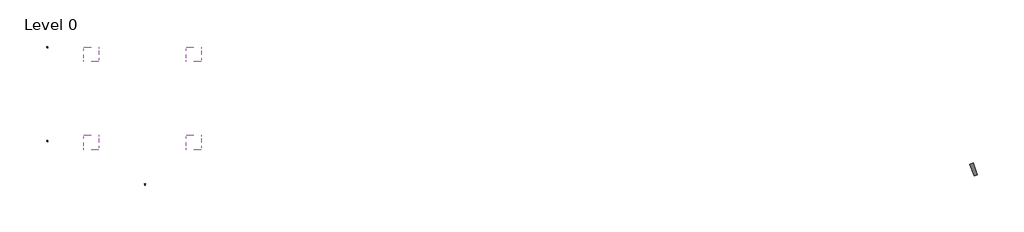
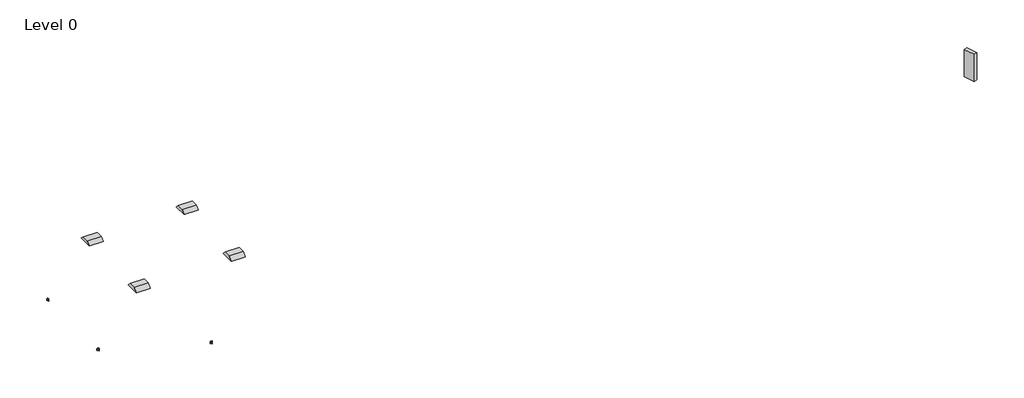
# One storey: 4 light fixtures, 4 proxies.
"""IFC4 building model written with IfcOpenShell, lengths in millimetres."""

from ifc_helpers import new_model, si_unit, origin, place, context, project, spatial, transform, mapped, element, save
from components import duplex_receptacle_standard_10251bba, lighting_and_appliance_panelboard_208v_mlo_400_a_cc8ff811, plain_recessed_lighting_fixture_2x2_120_2107ce2d

model = new_model("IFC4")

# Units and contexts
model_context = context("Model", 3, world=origin())
ifc_project = project(units=[si_unit("LENGTHUNIT", "METRE", prefix="MILLI")], contexts=[model_context])

# Site, building, storey
site = spatial("IfcSite", under=ifc_project)
building = spatial("IfcBuilding", under=site)
storey = spatial("IfcBuildingStorey", under=building, Name="Level 0", Elevation=0.0)

# Proxies
placement = place(None, origin())
duplex_receptacle_standard_shape = duplex_receptacle_standard_10251bba(model_context)
element("IfcBuildingElementProxy", 1, Name="Duplex Receptacle : Standard", ObjectType="Duplex Receptacle : Standard", at=placement, inside=storey, context=model_context, shape_type="MappedRepresentation", body=[
    mapped(duplex_receptacle_standard_shape, transform((4404.6000023, 7938.2000004, 457.2), x_axis=(-1.0, 0.0, 0.0), y_axis=(0.0, 0.0, 1.0), z_axis=(0.0, 1.0, 0.0))),
])
element("IfcBuildingElementProxy", 2, Name="Duplex Receptacle : Standard", ObjectType="Duplex Receptacle : Standard", at=placement, inside=storey, context=model_context, shape_type="MappedRepresentation", body=[
    mapped(duplex_receptacle_standard_shape, transform((433.0000016, 9692.0000003, 457.2), x_axis=(1.6002882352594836e-10, 1.0, 0.0), y_axis=(0.0, 0.0, 1.0), z_axis=(1.0, -1.6002882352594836e-10, 0.0))),
])
element("IfcBuildingElementProxy", 3, Name="Duplex Receptacle : Standard", ObjectType="Duplex Receptacle : Standard", at=placement, inside=storey, context=model_context, shape_type="MappedRepresentation", body=[
    mapped(duplex_receptacle_standard_shape, transform((433.0000022, 13534.4000003, 457.2), x_axis=(1.6002882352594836e-10, 1.0, 0.0), y_axis=(0.0, 0.0, 1.0), z_axis=(1.0, -1.6002882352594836e-10, 0.0))),
])
lighting_and_appliance_panelboard_208v_mlo_400_a_shape = lighting_and_appliance_panelboard_208v_mlo_400_a_cc8ff811(model_context)
element("IfcBuildingElementProxy", 4, Name="Lighting and Appliance Panelboard - 208V MLO : 400 A", ObjectType="Lighting and Appliance Panelboard - 208V MLO : 400 A", at=placement, inside=storey, context=model_context, shape_type="MappedRepresentation", body=[
    mapped(lighting_and_appliance_panelboard_208v_mlo_400_a_shape, transform((38219.0265523, 8505.4533516, 1219.2), x_axis=(0.3420201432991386, -0.9396926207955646, 0.0), y_axis=(0.0, 0.0, 1.0), z_axis=(-0.9396926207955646, -0.3420201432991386, 0.0))),
])

# Light fixtures
plain_recessed_lighting_fixture_2x2_120_shape = plain_recessed_lighting_fixture_2x2_120_2107ce2d(model_context)
element("IfcLightFixture", 5, ObjectType="Plain Recessed Lighting Fixture : 2x2 - 120", at=placement, inside=storey, context=model_context, shape_type="MappedRepresentation", body=[
    mapped(plain_recessed_lighting_fixture_2x2_120_shape, transform((1900.100002, 12938.5500007, 2800.0), x_axis=(1.0, 0.0, 0.0), y_axis=(0.0, -1.0, 0.0), z_axis=(0.0, 0.0, -1.0))),
])
element("IfcLightFixture", 6, ObjectType="Plain Recessed Lighting Fixture : 2x2 - 120", at=placement, inside=storey, context=model_context, shape_type="MappedRepresentation", body=[
    mapped(plain_recessed_lighting_fixture_2x2_120_shape, transform((6100.100002, 12938.5500007, 2800.0), x_axis=(1.0, 0.0, 0.0), y_axis=(0.0, -1.0, 0.0), z_axis=(0.0, 0.0, -1.0))),
])
element("IfcLightFixture", 7, ObjectType="Plain Recessed Lighting Fixture : 2x2 - 120", at=placement, inside=storey, context=model_context, shape_type="MappedRepresentation", body=[
    mapped(plain_recessed_lighting_fixture_2x2_120_shape, transform((1900.100002, 9338.5500007, 2800.0), x_axis=(1.0, 0.0, 0.0), y_axis=(0.0, -1.0, 0.0), z_axis=(0.0, 0.0, -1.0))),
])
element("IfcLightFixture", 8, ObjectType="Plain Recessed Lighting Fixture : 2x2 - 120", at=placement, inside=storey, context=model_context, shape_type="MappedRepresentation", body=[
    mapped(plain_recessed_lighting_fixture_2x2_120_shape, transform((6100.100002, 9338.5500007, 2800.0), x_axis=(1.0, 0.0, 0.0), y_axis=(0.0, -1.0, 0.0), z_axis=(0.0, 0.0, -1.0))),
])

save(model, "model.ifc")
